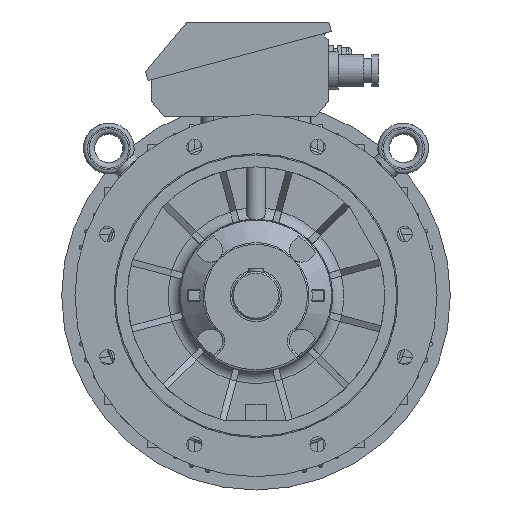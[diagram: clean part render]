
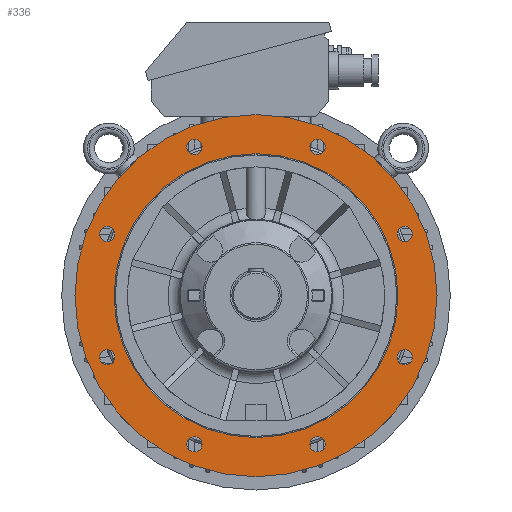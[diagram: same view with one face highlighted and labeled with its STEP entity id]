
A CAD part, front view. The second image highlights one B-rep face of the part: STEP entity #336.
In plain terms, the highlighted planar face has unit normal (0, -1, 0).
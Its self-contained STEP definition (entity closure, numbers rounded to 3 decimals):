
#336 = ADVANCED_FACE( '', ( #1444, #1445, #1446, #1447, #1448, #1449, #1450, #1451, #1452, #1453 ), #1454, .F. );
#1444 = FACE_BOUND( '', #3488, .T. );
#1445 = FACE_BOUND( '', #3489, .T. );
#1446 = FACE_BOUND( '', #3490, .T. );
#1447 = FACE_BOUND( '', #3491, .T. );
#1448 = FACE_BOUND( '', #3492, .T. );
#1449 = FACE_BOUND( '', #3493, .T. );
#1450 = FACE_BOUND( '', #3494, .T. );
#1451 = FACE_BOUND( '', #3495, .T. );
#1452 = FACE_BOUND( '', #3496, .T. );
#1453 = FACE_OUTER_BOUND( '', #3497, .T. );
#1454 = PLANE( '', #3498 );
#3488 = EDGE_LOOP( '', ( #7202 ) );
#3489 = EDGE_LOOP( '', ( #7203 ) );
#3490 = EDGE_LOOP( '', ( #7204 ) );
#3491 = EDGE_LOOP( '', ( #7205 ) );
#3492 = EDGE_LOOP( '', ( #7206 ) );
#3493 = EDGE_LOOP( '', ( #7207 ) );
#3494 = EDGE_LOOP( '', ( #7208 ) );
#3495 = EDGE_LOOP( '', ( #7209 ) );
#3496 = EDGE_LOOP( '', ( #7210 ) );
#3497 = EDGE_LOOP( '', ( #7211 ) );
#3498 = AXIS2_PLACEMENT_3D( '', #7212, #7213, #7214 );
#7202 = ORIENTED_EDGE( '', *, *, #12543, .F. );
#7203 = ORIENTED_EDGE( '', *, *, #12544, .F. );
#7204 = ORIENTED_EDGE( '', *, *, #12545, .F. );
#7205 = ORIENTED_EDGE( '', *, *, #12546, .F. );
#7206 = ORIENTED_EDGE( '', *, *, #12547, .F. );
#7207 = ORIENTED_EDGE( '', *, *, #12548, .F. );
#7208 = ORIENTED_EDGE( '', *, *, #12549, .F. );
#7209 = ORIENTED_EDGE( '', *, *, #12550, .F. );
#7210 = ORIENTED_EDGE( '', *, *, #12551, .F. );
#7211 = ORIENTED_EDGE( '', *, *, #12144, .F. );
#7212 = CARTESIAN_POINT( '', ( -176.395, -85.5, 0. ) );
#7213 = DIRECTION( '', ( 0., 1., 0. ) );
#7214 = DIRECTION( '', ( -1., 0., 0. ) );
#12144 = EDGE_CURVE( '', #14921, #14921, #14922, .T. );
#12543 = EDGE_CURVE( '', #15546, #15546, #15547, .T. );
#12544 = EDGE_CURVE( '', #15548, #15548, #15549, .T. );
#12545 = EDGE_CURVE( '', #15550, #15550, #15551, .T. );
#12546 = EDGE_CURVE( '', #15552, #15552, #15553, .T. );
#12547 = EDGE_CURVE( '', #15554, #15554, #15555, .T. );
#12548 = EDGE_CURVE( '', #15556, #15556, #15557, .T. );
#12549 = EDGE_CURVE( '', #15558, #15558, #15559, .T. );
#12550 = EDGE_CURVE( '', #15560, #15560, #15561, .T. );
#12551 = EDGE_CURVE( '', #15562, #15562, #15563, .T. );
#14921 = VERTEX_POINT( '', #20364 );
#14922 = CIRCLE( '', #20365, 224.995 );
#15546 = VERTEX_POINT( '', #21739 );
#15547 = CIRCLE( '', #21740, 176.395 );
#15548 = VERTEX_POINT( '', #21741 );
#15549 = CIRCLE( '', #21742, 9.5 );
#15550 = VERTEX_POINT( '', #21743 );
#15551 = CIRCLE( '', #21744, 9.5 );
#15552 = VERTEX_POINT( '', #21745 );
#15553 = CIRCLE( '', #21746, 9.5 );
#15554 = VERTEX_POINT( '', #21747 );
#15555 = CIRCLE( '', #21748, 9.5 );
#15556 = VERTEX_POINT( '', #21749 );
#15557 = CIRCLE( '', #21750, 9.5 );
#15558 = VERTEX_POINT( '', #21751 );
#15559 = CIRCLE( '', #21752, 9.5 );
#15560 = VERTEX_POINT( '', #21753 );
#15561 = CIRCLE( '', #21754, 9.5 );
#15562 = VERTEX_POINT( '', #21755 );
#15563 = CIRCLE( '', #21756, 9.5 );
#20364 = CARTESIAN_POINT( '', ( -224.995, -85.5, 0. ) );
#20365 = AXIS2_PLACEMENT_3D( '', #26036, #26037, #26038 );
#21739 = CARTESIAN_POINT( '', ( 176.395, -85.5, 0. ) );
#21740 = AXIS2_PLACEMENT_3D( '', #26629, #26630, #26631 );
#21741 = CARTESIAN_POINT( '', ( 194.276, -85.5, 76.537 ) );
#21742 = AXIS2_PLACEMENT_3D( '', #26632, #26633, #26634 );
#21743 = CARTESIAN_POINT( '', ( 194.276, -85.5, -76.537 ) );
#21744 = AXIS2_PLACEMENT_3D( '', #26635, #26636, #26637 );
#21745 = CARTESIAN_POINT( '', ( 86.037, -85.5, -184.776 ) );
#21746 = AXIS2_PLACEMENT_3D( '', #26638, #26639, #26640 );
#21747 = CARTESIAN_POINT( '', ( -67.037, -85.5, -184.776 ) );
#21748 = AXIS2_PLACEMENT_3D( '', #26641, #26642, #26643 );
#21749 = CARTESIAN_POINT( '', ( -175.276, -85.5, -76.537 ) );
#21750 = AXIS2_PLACEMENT_3D( '', #26644, #26645, #26646 );
#21751 = CARTESIAN_POINT( '', ( -175.276, -85.5, 76.537 ) );
#21752 = AXIS2_PLACEMENT_3D( '', #26647, #26648, #26649 );
#21753 = CARTESIAN_POINT( '', ( -67.037, -85.5, 184.776 ) );
#21754 = AXIS2_PLACEMENT_3D( '', #26650, #26651, #26652 );
#21755 = CARTESIAN_POINT( '', ( 86.037, -85.5, 184.776 ) );
#21756 = AXIS2_PLACEMENT_3D( '', #26653, #26654, #26655 );
#26036 = CARTESIAN_POINT( '', ( 0., -85.5, 0. ) );
#26037 = DIRECTION( '', ( 0., 1., 0. ) );
#26038 = DIRECTION( '', ( -1., 0., 0. ) );
#26629 = CARTESIAN_POINT( '', ( 0., -85.5, 0. ) );
#26630 = DIRECTION( '', ( 0., -1., 0. ) );
#26631 = DIRECTION( '', ( 1., 0., 0. ) );
#26632 = CARTESIAN_POINT( '', ( 184.776, -85.5, 76.537 ) );
#26633 = DIRECTION( '', ( 0., -1., 0. ) );
#26634 = DIRECTION( '', ( 1., 0., 0. ) );
#26635 = CARTESIAN_POINT( '', ( 184.776, -85.5, -76.537 ) );
#26636 = DIRECTION( '', ( 0., -1., 0. ) );
#26637 = DIRECTION( '', ( 1., 0., 0. ) );
#26638 = CARTESIAN_POINT( '', ( 76.537, -85.5, -184.776 ) );
#26639 = DIRECTION( '', ( 0., -1., 0. ) );
#26640 = DIRECTION( '', ( 1., 0., 0. ) );
#26641 = CARTESIAN_POINT( '', ( -76.537, -85.5, -184.776 ) );
#26642 = DIRECTION( '', ( 0., -1., 0. ) );
#26643 = DIRECTION( '', ( 1., 0., 0. ) );
#26644 = CARTESIAN_POINT( '', ( -184.776, -85.5, -76.537 ) );
#26645 = DIRECTION( '', ( 0., -1., 0. ) );
#26646 = DIRECTION( '', ( 1., 0., 0. ) );
#26647 = CARTESIAN_POINT( '', ( -184.776, -85.5, 76.537 ) );
#26648 = DIRECTION( '', ( 0., -1., 0. ) );
#26649 = DIRECTION( '', ( 1., 0., 0. ) );
#26650 = CARTESIAN_POINT( '', ( -76.537, -85.5, 184.776 ) );
#26651 = DIRECTION( '', ( 0., -1., 0. ) );
#26652 = DIRECTION( '', ( 1., 0., 0. ) );
#26653 = CARTESIAN_POINT( '', ( 76.537, -85.5, 184.776 ) );
#26654 = DIRECTION( '', ( 0., -1., 0. ) );
#26655 = DIRECTION( '', ( 1., 0., 0. ) );
